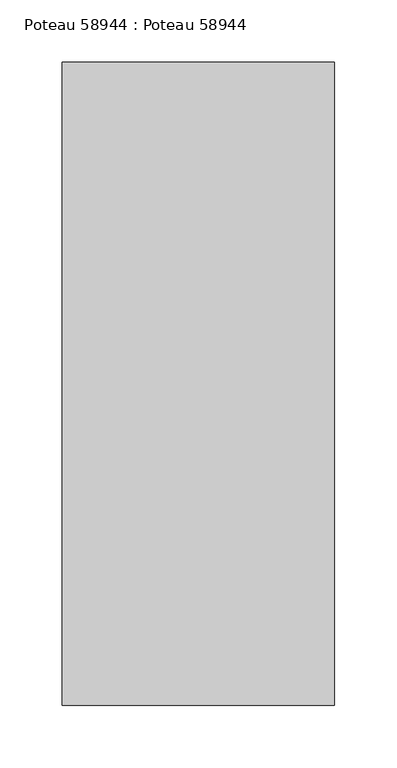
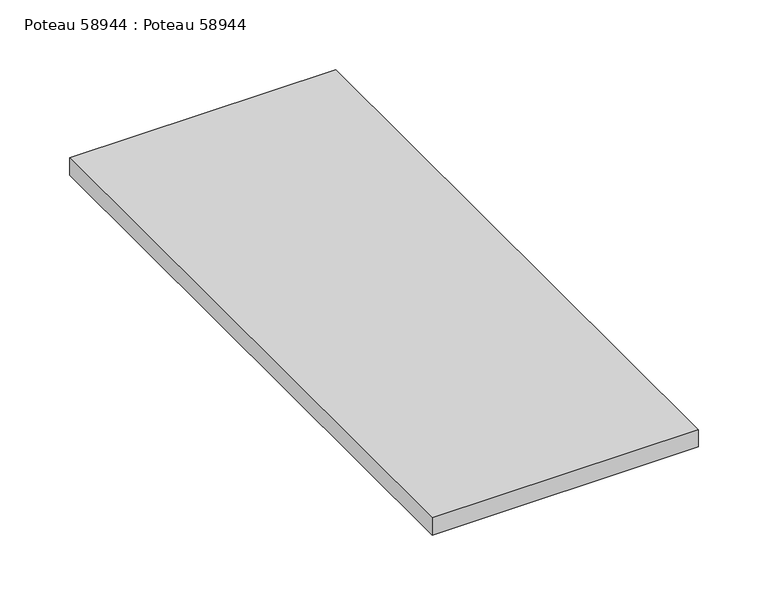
"""IFC4 building model written with IfcOpenShell, lengths in millimetres: beam geometry, Poteau 58944 : Poteau 58944."""

import ifcopenshell
import ifcopenshell.guid

model = None  # the IFC model being written
_history = None  # IfcOwnerHistory: only IFC2X3 demands one
_inside = {}  # id of a spatial element -> (the spatial element, [elements in it])
_under = {}  # id of a project, library or spatial element -> (it, [spatial elements below it])
_declared = {}  # id of a project -> (the project, [libraries it declares])
_typed = {}  # id of a type object -> (the type object, [elements of that type])
_made_of = {}  # id of a material, layer set ... -> (it, [elements and type objects made of it])


def new_model(schema):
    """Start an empty IFC model of exactly this schema.

    Asked for "IFC4X3", IfcOpenShell would pick the latest addendum, in which some entities
    have other attributes; the version numbers below select the first issue.
    IFC2X3 requires an IfcOwnerHistory on every rooted entity: one is made here for all.
    """
    global model, _history
    if schema == "IFC4X3":
        model = ifcopenshell.file(schema_version=(4, 3, 0, 0))
    else:
        model = ifcopenshell.file(schema=schema)
    _inside.clear()
    _under.clear()
    _declared.clear()
    _typed.clear()
    _made_of.clear()
    _history = None
    if model.schema == "IFC2X3":
        org = make("IfcOrganization", Name="unknown")
        user = make(
            "IfcPersonAndOrganization",
            ThePerson=make("IfcPerson", FamilyName="unknown"),
            TheOrganization=org,
        )
        app = make(
            "IfcApplication",
            ApplicationDeveloper=org,
            Version="unknown",
            ApplicationFullName="unknown",
            ApplicationIdentifier="unknown",
        )
        _history = make(
            "IfcOwnerHistory",
            OwningUser=user,
            OwningApplication=app,
            ChangeAction="ADDED",
            CreationDate=0,
        )
    return model


def make(cls, **values):
    """One entity of the class cls with the attributes given. An attribute that is None is left unset."""
    return model.create_entity(
        cls, **{name: value for name, value in values.items() if value is not None}
    )


def rooted(cls, **values):
    """An entity with a GlobalId (a new one), such as an element, a storey or a relation."""
    return make(cls, GlobalId=ifcopenshell.guid.new(), OwnerHistory=_history, **values)


def si_unit(unit_type, name, prefix=None):
    """IfcSIUnit, for example si_unit("LENGTHUNIT", "METRE", prefix="MILLI")."""
    return make("IfcSIUnit", UnitType=unit_type, Prefix=prefix, Name=name)


def assignment(units):
    """IfcUnitAssignment: the units of a project."""
    return None if units is None else make("IfcUnitAssignment", Units=units)


def point(xyz):
    """IfcCartesianPoint."""
    return None if xyz is None else make("IfcCartesianPoint", Coordinates=xyz)


def direction(xyz):
    """IfcDirection."""
    return None if xyz is None else make("IfcDirection", DirectionRatios=xyz)


def frame(location, z_axis=None, x_axis=None):
    """IfcAxis2Placement3D, a coordinate frame: its origin and axes. An axis left out is left unset."""
    return make(
        "IfcAxis2Placement3D",
        Location=point(location),
        Axis=direction(z_axis),
        RefDirection=direction(x_axis),
    )


def origin():
    """The frame at (0, 0, 0) with its axes left unset."""
    return frame((0.0, 0.0, 0.0))


def place(relative_to, where):
    """IfcLocalPlacement: puts the frame where relative to a parent placement (None: the world)."""
    return make(
        "IfcLocalPlacement", PlacementRelTo=relative_to, RelativePlacement=where
    )


def context(
    kind, dimensions, precision=None, world=None, true_north=None, identifier=None
):
    """IfcGeometricRepresentationContext, for example the 3D "Model" context."""
    return make(
        "IfcGeometricRepresentationContext",
        ContextIdentifier=identifier,
        ContextType=kind,
        CoordinateSpaceDimension=dimensions,
        Precision=precision,
        WorldCoordinateSystem=world,
        TrueNorth=true_north,
    )


def project(units=None, contexts=None):
    """IfcProject with its units and contexts."""
    return rooted(
        "IfcProject",
        Name="project",
        RepresentationContexts=contexts,
        UnitsInContext=assignment(units),
    )


def spatial(cls, under=None, at=None, **own):
    """A site, building, storey or space (cls), placed at a placement, below another one or the project."""
    s = rooted(cls, ObjectPlacement=at, **own)
    if under is not None:
        _under.setdefault(under.id(), (under, []))[1].append(s)
    return s


def polyline(points):
    """IfcPolyline through the points."""
    return make("IfcPolyline", Points=[point(p) for p in points])


def outline(outer, holes=None, kind="AREA"):
    """IfcArbitraryClosedProfileDef: a profile drawn as a closed curve; with holes, ...WithVoids."""
    if holes is None:
        return make("IfcArbitraryClosedProfileDef", ProfileType=kind, OuterCurve=outer)
    return make(
        "IfcArbitraryProfileDefWithVoids",
        ProfileType=kind,
        OuterCurve=outer,
        InnerCurves=holes,
    )


def extrude(swept, where, along, depth):
    """IfcExtrudedAreaSolid: the profile swept, set in the frame where, extruded along a direction by depth."""
    return make(
        "IfcExtrudedAreaSolid",
        SweptArea=swept,
        Position=where,
        ExtrudedDirection=direction(along),
        Depth=depth,
    )


def shape(context_of_items, identifier, shape_type, items):
    """IfcShapeRepresentation: the items that make up one representation, for example the "Body"."""
    return make(
        "IfcShapeRepresentation",
        ContextOfItems=context_of_items,
        RepresentationIdentifier=identifier,
        RepresentationType=shape_type,
        Items=items,
    )


def source(mapping_origin, context_of_items, identifier, shape_type, items):
    """IfcRepresentationMap: a shape defined once, which mapped items show again and again."""
    return make(
        "IfcRepresentationMap",
        MappingOrigin=mapping_origin,
        MappedRepresentation=shape(context_of_items, identifier, shape_type, items),
    )


def transform(
    local_origin,
    x_axis=None,
    y_axis=None,
    z_axis=None,
    scale=None,
    scale2=None,
    scale3=None,
    uniform=True,
):
    """IfcCartesianTransformationOperator3D, or its non-uniform kind. x_axis, y_axis, z_axis: its Axis1, 2, 3."""
    if uniform:
        return make(
            "IfcCartesianTransformationOperator3D",
            Axis1=direction(x_axis),
            Axis2=direction(y_axis),
            LocalOrigin=point(local_origin),
            Scale=scale,
            Axis3=direction(z_axis),
        )
    return make(
        "IfcCartesianTransformationOperator3DnonUniform",
        Axis1=direction(x_axis),
        Axis2=direction(y_axis),
        LocalOrigin=point(local_origin),
        Scale=scale,
        Axis3=direction(z_axis),
        Scale2=scale2,
        Scale3=scale3,
    )


def mapped(mapping_source, mapping_target):
    """IfcMappedItem: shows the shape of a source again, moved by a transform."""
    return make(
        "IfcMappedItem", MappingSource=mapping_source, MappingTarget=mapping_target
    )


def made_of(thing, what):
    """Note that an element or type object is made of a material, layer set ...; save() writes the relation."""
    if what is not None:
        _made_of.setdefault(what.id(), (what, []))[1].append(thing)
    return thing


def element(
    cls,
    number,
    at=None,
    inside=None,
    cuts=None,
    type_object=None,
    material=None,
    context=None,
    identifier="Body",
    shape_type=None,
    held_by="IfcProductDefinitionShape",
    body=None,
    shapes=None,
    **own,
):
    """One element of the class cls, such as IfcWall. Its Tag is "e" and its number.

    at: its placement. inside: the storey or other place that contains it. cuts: it is an
    opening in that element (IfcRelVoidsElement). A single representation is given by context,
    identifier, shape_type and body (its items); several are given by shapes. held_by: the class
    of the entity that holds the representations. save() writes the other relations.
    """
    e = rooted(cls, Tag="e%d" % number, ObjectPlacement=at, **own)
    if body is not None:
        shapes = [shape(context, identifier, shape_type, body)]
    if shapes is not None:
        e.Representation = make(held_by, Representations=shapes)
    if inside is not None:
        _inside.setdefault(inside.id(), (inside, []))[1].append(e)
    if cuts is not None:
        rooted(
            "IfcRelVoidsElement", RelatingBuildingElement=cuts, RelatedOpeningElement=e
        )
    if type_object is not None:
        _typed.setdefault(type_object.id(), (type_object, []))[1].append(e)
    return made_of(e, material)


def aggregate(whole, parts):
    """IfcRelAggregates: a whole, such as a stair, and the parts it consists of."""
    return rooted("IfcRelAggregates", RelatingObject=whole, RelatedObjects=parts)


def save(model, path):
    """Write the relations noted so far, then the file.

    IfcRelAggregates (storeys below a building ...), IfcRelContainedInSpatialStructure (elements
    in a storey), IfcRelDefinesByType, IfcRelAssociatesMaterial and IfcRelDeclares: one each for
    every whole, place, type object, material and project.
    """
    for whole, parts in _under.values():
        aggregate(whole, parts)
    for where, things in _inside.values():
        rooted(
            "IfcRelContainedInSpatialStructure",
            RelatedElements=things,
            RelatingStructure=where,
        )
    for kind, things in _typed.values():
        rooted("IfcRelDefinesByType", RelatedObjects=things, RelatingType=kind)
    for what, things in _made_of.values():
        rooted("IfcRelAssociatesMaterial", RelatedObjects=things, RelatingMaterial=what)
    for by, libraries in _declared.values():
        rooted("IfcRelDeclares", RelatingContext=by, RelatedDefinitions=libraries)
    model.write(path)


def poteau_58944_poteau_58944_701dc477(model_context):
    return source(origin(), model_context, "Body", "SweptSolid", [
        extrude(outline(polyline([(109.9999999, -7996.0), (109.9999999, -8515.0), (-110.0000001, -8515.0), (-110.0000001, -7996.0), (109.9999999, -7996.0)])), frame((0.0, 0.0, 8015.14), z_axis=(0.0, 0.0, 1.0), x_axis=(1.0, 0.0, 0.0)), (0.0, 0.0, 1.0), 15.0),
    ])


if __name__ == "__main__":
    model = new_model("IFC4")
    model_context = context("Model", 3, world=origin())
    ifc_project = project(units=[si_unit("LENGTHUNIT", "METRE", prefix="MILLI")], contexts=[model_context])
    site = spatial("IfcSite", under=ifc_project)
    building = spatial("IfcBuilding", under=site)
    placement = place(None, origin())
    poteau_58944_poteau_58944_shape = poteau_58944_poteau_58944_701dc477(model_context)
    element("IfcBeam", 1, ObjectType="Poteau 58944 : Poteau 58944", at=placement, inside=building, context=model_context, shape_type="MappedRepresentation", body=[
        mapped(poteau_58944_poteau_58944_shape, transform((0.0, 0.0, 0.0), x_axis=(1.0, 0.0, 0.0), y_axis=(0.0, 1.0, 0.0), z_axis=(0.0, 0.0, 1.0))),
    ])
    save(model, "model.ifc")
